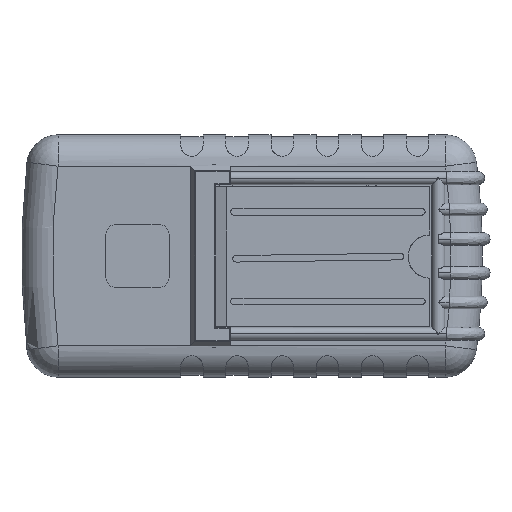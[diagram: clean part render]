
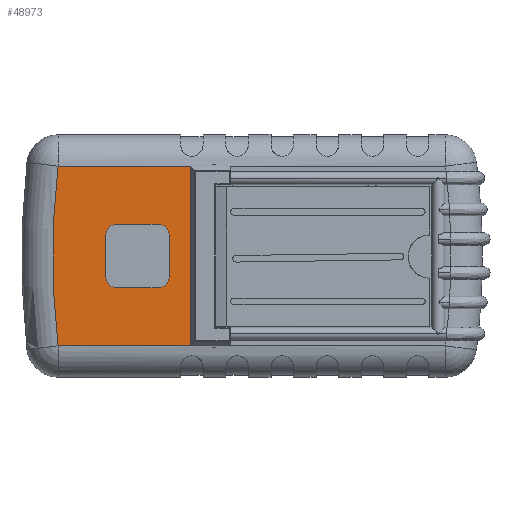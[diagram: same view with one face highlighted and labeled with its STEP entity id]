
A CAD part, front view. The second image highlights one B-rep face of the part: STEP entity #48973.
In plain terms, the highlighted planar face has unit normal (0, -1, 0).
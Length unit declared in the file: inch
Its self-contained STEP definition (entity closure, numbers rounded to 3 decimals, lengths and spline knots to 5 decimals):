
#638 = ORIENTED_EDGE ( 'NONE', *, *, #25104, .T. ) ;
#1495 = VECTOR ( 'NONE', #48829, 39.37008 ) ;
#1684 = EDGE_CURVE ( 'NONE', #50066, #31535, #29849, .T. ) ;
#2027 = FACE_BOUND ( 'NONE', #7726, .T. ) ;
#2067 = CARTESIAN_POINT ( 'NONE',  ( -3.64396, 0., 1.69045 ) ) ;
#2240 = VERTEX_POINT ( 'NONE', #46879 ) ;
#2433 = EDGE_CURVE ( 'NONE', #17255, #53677, #11883, .T. ) ;
#2790 = LINE ( 'NONE', #41591, #15313 ) ;
#2897 = VERTEX_POINT ( 'NONE', #11496 ) ;
#3257 = DIRECTION ( 'NONE',  ( -1., 0., 0. ) ) ;
#3633 = VECTOR ( 'NONE', #3257, 39.37008 ) ;
#4109 = ORIENTED_EDGE ( 'NONE', *, *, #7804, .T. ) ;
#4167 = CARTESIAN_POINT ( 'NONE',  ( -1.74384, 0., -0.594 ) ) ;
#4351 = ORIENTED_EDGE ( 'NONE', *, *, #45827, .T. ) ;
#4538 = VECTOR ( 'NONE', #15096, 39.37008 ) ;
#5073 = EDGE_LOOP ( 'NONE', ( #33015, #35660, #5112, #638 ) ) ;
#5112 = ORIENTED_EDGE ( 'NONE', *, *, #1684, .T. ) ;
#6619 = CARTESIAN_POINT ( 'NONE',  ( -2.74384, 0., -0.594 ) ) ;
#7726 = EDGE_LOOP ( 'NONE', ( #53281, #30236, #52967, #20257, #43878, #4351, #4109, #30273 ) ) ;
#7804 = EDGE_CURVE ( 'NONE', #22932, #8240, #2790, .T. ) ;
#8240 = VERTEX_POINT ( 'NONE', #14840 ) ;
#8614 = VERTEX_POINT ( 'NONE', #35073 ) ;
#10304 = PLANE ( 'NONE',  #13387 ) ;
#10579 = CARTESIAN_POINT ( 'NONE',  ( -1.15584, 0., 1.69045 ) ) ;
#11114 = LINE ( 'NONE', #18000, #44697 ) ;
#11496 = CARTESIAN_POINT ( 'NONE',  ( -2.74384, 0., 0.406 ) ) ;
#11883 = CIRCLE ( 'NONE', #27579, 0.188 ) ;
#12729 = LINE ( 'NONE', #32129, #1495 ) ;
#13010 = CARTESIAN_POINT ( 'NONE',  ( 9.85839, 0., 0. ) ) ;
#13016 = CARTESIAN_POINT ( 'NONE',  ( 0., 0., 1.69045 ) ) ;
#13387 = AXIS2_PLACEMENT_3D ( 'NONE', #31349, #14555, #43990 ) ;
#13759 = CARTESIAN_POINT ( 'NONE',  ( -1.15584, 0., 1.6935 ) ) ;
#14555 = DIRECTION ( 'NONE',  ( 0., 1., 0. ) ) ;
#14637 = DIRECTION ( 'NONE',  ( 0., 1., 0. ) ) ;
#14840 = CARTESIAN_POINT ( 'NONE',  ( -1.74384, 0., 0.594 ) ) ;
#15096 = DIRECTION ( 'NONE',  ( 0., 0., 1. ) ) ;
#15313 = VECTOR ( 'NONE', #50039, 39.37008 ) ;
#15725 = CIRCLE ( 'NONE', #41128, 0.188 ) ;
#15886 = CARTESIAN_POINT ( 'NONE',  ( -2.55584, 0., -0.406 ) ) ;
#16941 = EDGE_CURVE ( 'NONE', #18286, #31478, #25294, .T. ) ;
#17255 = VERTEX_POINT ( 'NONE', #19988 ) ;
#17259 = DIRECTION ( 'NONE',  ( 0., 0., 1. ) ) ;
#17629 = DIRECTION ( 'NONE',  ( 0., 1., 0. ) ) ;
#18000 = CARTESIAN_POINT ( 'NONE',  ( -1.55584, 0., -0.594 ) ) ;
#18121 = VECTOR ( 'NONE', #46702, 39.37008 ) ;
#18254 = VERTEX_POINT ( 'NONE', #43711 ) ;
#18286 = VERTEX_POINT ( 'NONE', #10579 ) ;
#18469 = EDGE_CURVE ( 'NONE', #18254, #2240, #38285, .T. ) ;
#19988 = CARTESIAN_POINT ( 'NONE',  ( -1.55584, 0., -0.406 ) ) ;
#20141 = DIRECTION ( 'NONE',  ( 0., 0., 1. ) ) ;
#20257 = ORIENTED_EDGE ( 'NONE', *, *, #18469, .T. ) ;
#20745 = CARTESIAN_POINT ( 'NONE',  ( -1.74384, 0., 0.406 ) ) ;
#22932 = VERTEX_POINT ( 'NONE', #32931 ) ;
#24904 = CIRCLE ( 'NONE', #38612, 0.188 ) ;
#25010 = DIRECTION ( 'NONE',  ( 0., 0., 1. ) ) ;
#25104 = EDGE_CURVE ( 'NONE', #31535, #31478, #12729, .T. ) ;
#25294 = LINE ( 'NONE', #13759, #35142 ) ;
#27579 = AXIS2_PLACEMENT_3D ( 'NONE', #39876, #14637, #44084 ) ;
#29849 = CIRCLE ( 'NONE', #41973, 13.60776 ) ;
#30236 = ORIENTED_EDGE ( 'NONE', *, *, #2433, .T. ) ;
#30273 = ORIENTED_EDGE ( 'NONE', *, *, #37246, .T. ) ;
#31349 = CARTESIAN_POINT ( 'NONE',  ( 0., 0., 0. ) ) ;
#31478 = VERTEX_POINT ( 'NONE', #36262 ) ;
#31535 = VERTEX_POINT ( 'NONE', #41210 ) ;
#32129 = CARTESIAN_POINT ( 'NONE',  ( 0., 0., -1.69045 ) ) ;
#32354 = EDGE_CURVE ( 'NONE', #2240, #2897, #38174, .T. ) ;
#32658 = EDGE_CURVE ( 'NONE', #8614, #17255, #11114, .T. ) ;
#32931 = CARTESIAN_POINT ( 'NONE',  ( -2.55584, 0., 0.594 ) ) ;
#33015 = ORIENTED_EDGE ( 'NONE', *, *, #16941, .F. ) ;
#35073 = CARTESIAN_POINT ( 'NONE',  ( -1.55584, 0., 0.406 ) ) ;
#35142 = VECTOR ( 'NONE', #51645, 39.37008 ) ;
#35660 = ORIENTED_EDGE ( 'NONE', *, *, #47339, .T. ) ;
#36262 = CARTESIAN_POINT ( 'NONE',  ( -1.15584, 0., -1.69045 ) ) ;
#37246 = EDGE_CURVE ( 'NONE', #8240, #8614, #15725, .T. ) ;
#37251 = LINE ( 'NONE', #53680, #3633 ) ;
#38174 = LINE ( 'NONE', #6619, #4538 ) ;
#38285 = CIRCLE ( 'NONE', #53384, 0.188 ) ;
#38612 = AXIS2_PLACEMENT_3D ( 'NONE', #42862, #17629, #47064 ) ;
#39876 = CARTESIAN_POINT ( 'NONE',  ( -1.74384, 0., -0.406 ) ) ;
#41128 = AXIS2_PLACEMENT_3D ( 'NONE', #20745, #50180, #25010 ) ;
#41210 = CARTESIAN_POINT ( 'NONE',  ( -3.64396, 0., -1.69045 ) ) ;
#41591 = CARTESIAN_POINT ( 'NONE',  ( -2.74384, 0., 0.594 ) ) ;
#41973 = AXIS2_PLACEMENT_3D ( 'NONE', #13010, #42463, #17259 ) ;
#42463 = DIRECTION ( 'NONE',  ( 0., -1., 0. ) ) ;
#42862 = CARTESIAN_POINT ( 'NONE',  ( -2.55584, 0., 0.406 ) ) ;
#43711 = CARTESIAN_POINT ( 'NONE',  ( -2.55584, 0., -0.594 ) ) ;
#43878 = ORIENTED_EDGE ( 'NONE', *, *, #32354, .T. ) ;
#43990 = DIRECTION ( 'NONE',  ( 0., 0., 1. ) ) ;
#44084 = DIRECTION ( 'NONE',  ( 0., 0., 1. ) ) ;
#44697 = VECTOR ( 'NONE', #47420, 39.37008 ) ;
#45358 = DIRECTION ( 'NONE',  ( 0., 1., 0. ) ) ;
#45827 = EDGE_CURVE ( 'NONE', #2897, #22932, #24904, .T. ) ;
#46702 = DIRECTION ( 'NONE',  ( -1., 0., 0. ) ) ;
#46831 = FACE_OUTER_BOUND ( 'NONE', #5073, .T. ) ;
#46879 = CARTESIAN_POINT ( 'NONE',  ( -2.74384, 0., -0.406 ) ) ;
#47064 = DIRECTION ( 'NONE',  ( 0., 0., 1. ) ) ;
#47200 = EDGE_CURVE ( 'NONE', #53677, #18254, #37251, .T. ) ;
#47339 = EDGE_CURVE ( 'NONE', #18286, #50066, #51698, .T. ) ;
#47420 = DIRECTION ( 'NONE',  ( 0., 0., -1. ) ) ;
#48829 = DIRECTION ( 'NONE',  ( 1., 0., 0. ) ) ;
#48973 = ADVANCED_FACE ( 'NONE', ( #2027, #46831 ), #10304, .F. ) ;
#50039 = DIRECTION ( 'NONE',  ( 1., 0., 0. ) ) ;
#50066 = VERTEX_POINT ( 'NONE', #2067 ) ;
#50180 = DIRECTION ( 'NONE',  ( 0., 1., 0. ) ) ;
#51645 = DIRECTION ( 'NONE',  ( 0., 0., -1. ) ) ;
#51698 = LINE ( 'NONE', #13016, #18121 ) ;
#52967 = ORIENTED_EDGE ( 'NONE', *, *, #47200, .T. ) ;
#53281 = ORIENTED_EDGE ( 'NONE', *, *, #32658, .T. ) ;
#53384 = AXIS2_PLACEMENT_3D ( 'NONE', #15886, #45358, #20141 ) ;
#53677 = VERTEX_POINT ( 'NONE', #4167 ) ;
#53680 = CARTESIAN_POINT ( 'NONE',  ( -2.74384, 0., -0.594 ) ) ;
